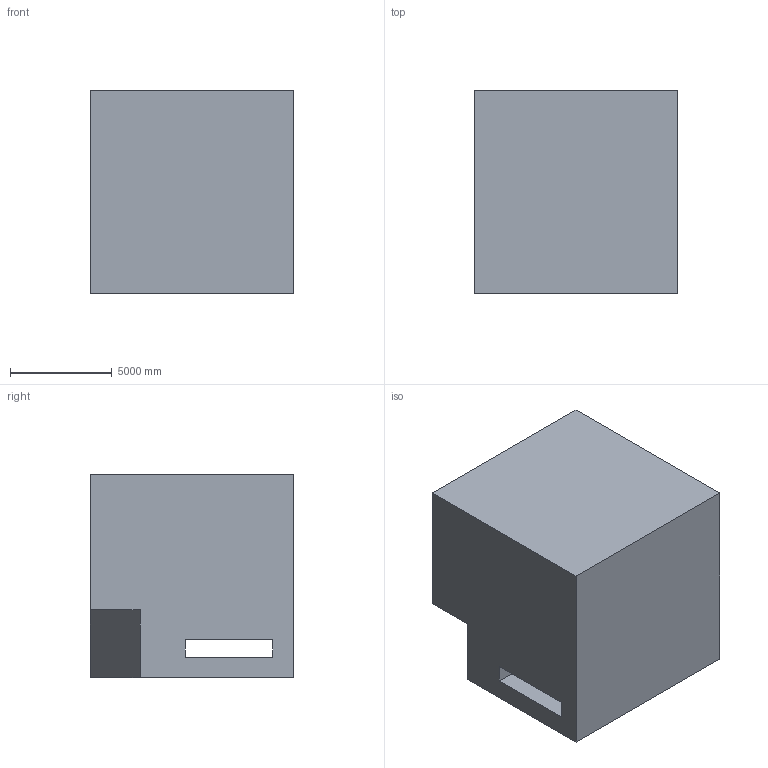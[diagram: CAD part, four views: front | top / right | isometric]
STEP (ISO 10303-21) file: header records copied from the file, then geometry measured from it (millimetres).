
FILE_DESCRIPTION (( 'STEP AP203' ), '1' );
FILE_NAME ('110.STEP', '2022-09-06T15:06:28', ( 'user' ), ( '' ), 'SwSTEP 2.0', 'SolidWorks 2021', '' );
FILE_SCHEMA (( 'CONFIG_CONTROL_DESIGN' ));
Length unit declared in the file: centimetre
Products named in the file (1): 110
Bounding box: 10000 x 10000 x 10000 mm (x, y, z)
Volume: 947331629538.7 mm3; surface area: 691412654.3 mm2
Topology: 1 solids, 1 shells, 12 faces, 30 edges, 20 vertices
Faces by surface type: plane 12
Entity records: 435 total; most frequent: CARTESIAN_POINT 63, ORIENTED_EDGE 60, DIRECTION 56, VECTOR 30, EDGE_CURVE 30, LINE 30, VERTEX_POINT 20, EDGE_LOOP 14
